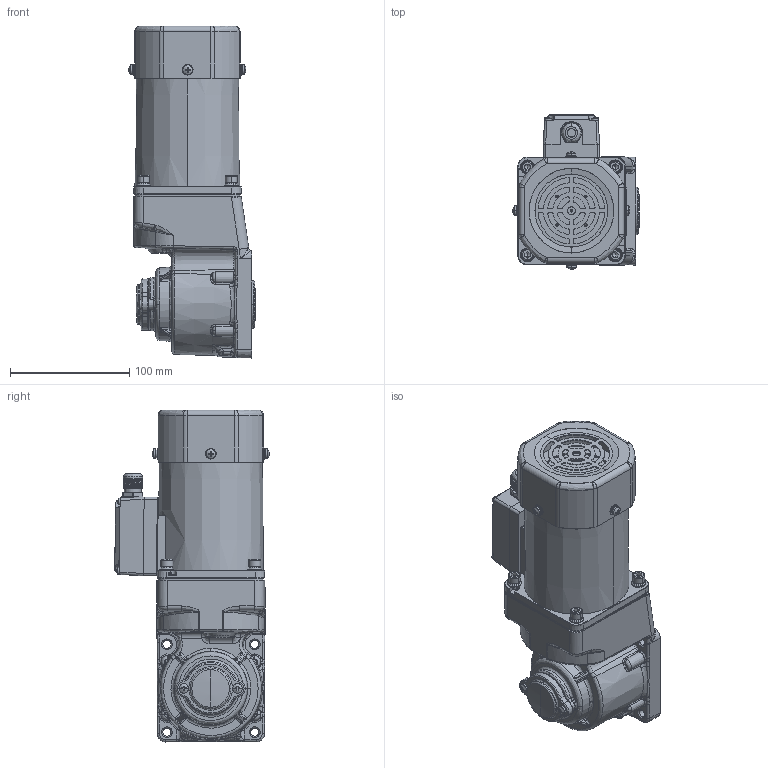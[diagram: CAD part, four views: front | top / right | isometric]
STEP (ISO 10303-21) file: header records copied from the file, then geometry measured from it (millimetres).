
FILE_DESCRIPTION (( 'STEP AP203' ), '1' );
FILE_NAME ('5IK120RGU-CFT(5GU3RC-180RC)ÐÂ.STEP', '2023-08-18T06:13:59', ( 'Windows User' ), ( 'P R C' ), 'SwSTEP 2.0', 'SolidWorks 2019', '' );
FILE_SCHEMA (( 'CONFIG_CONTROL_DESIGN' ));
Length unit declared in the file: millimetre
Products named in the file (9): 90RT____________^5IK120RGU-CFT(5GU3RC-180RC)ÐÂ(2)_5IK120RGU-CFT(5GU3RC-180RC)ÐÂ; ZD-5GU50RC-505-003______1^5IK120RGU-CFT(5GU3RC-180RC)陔(2)_5IK120RGU-CFT(5GU3RC-180RC)陔; hexagon socket head cap screws gb_GB_FASTENER_SCREWS_HSHCS M5X12-N^5IK120RGU-CFT(5GU3RC-180RC)ÐÂ(2)_5IK120RGU-CFT(5GU3RC-180RC)ÐÂ; 5IK120RGU-CFT(5GU3RC-180RC)陔; 5IK90RGU-CFT(5GU3RT-180RT)^5IK120RGU-CFT(5GU3RC-180RC)ÐÂ(2)_5IK120RGU-CFT(5GU3RC-180RC)ÐÂ; cross recessed pan head screws gb_GB_CROSS_SCREWS_TYPE1 M4X6-6  H type-N^5IK120RGU-CFT(5GU3RC-180RC)ÐÂ(2)_5IK120RGU-CFT(5GU3RC-180RC)ÐÂ; 90__________^5IK120RGU-CFT(5GU3RC-180RC)陔(2)_5IK120RGU-CFT(5GU3RC-180RC)陔; 5IK120RGU-CFT(5GU3RC-180RC)陔(2)^5IK120RGU-CFT(5GU3RC-180RC)陔; 90__________-0^5IK120RGU-CFT(5GU3RC-180RC)陔(2)_5IK120RGU-CFT(5GU3RC-180RC)陔
Assembly tree (12 placements, depth 3):
  5IK120RGU-CFT(5GU3RC-180RC)陔
    5IK120RGU-CFT(5GU3RC-180RC)陔(2)^5IK120RGU-CFT(5GU3RC-180RC)陔
      90__________^5IK120RGU-CFT(5GU3RC-180RC)陔(2)_5IK120RGU-CFT(5GU3RC-180RC)陔
      90RT____________^5IK120RGU-CFT(5GU3RC-180RC)ÐÂ(2)_5IK120RGU-CFT(5GU3RC-180RC)ÐÂ
      90__________-0^5IK120RGU-CFT(5GU3RC-180RC)陔(2)_5IK120RGU-CFT(5GU3RC-180RC)陔
      hexagon socket head cap screws gb_GB_FASTENER_SCREWS_HSHCS M5X12-N^5IK120RGU-CFT(5GU3RC-180RC)ÐÂ(2)_5IK120RGU-CFT(5GU3RC-180RC)ÐÂ  x4
      ZD-5GU50RC-505-003______1^5IK120RGU-CFT(5GU3RC-180RC)陔(2)_5IK120RGU-CFT(5GU3RC-180RC)陔
      cross recessed pan head screws gb_GB_CROSS_SCREWS_TYPE1 M4X6-6  H type-N^5IK120RGU-CFT(5GU3RC-180RC)ÐÂ(2)_5IK120RGU-CFT(5GU3RC-180RC)ÐÂ  x2
      5IK90RGU-CFT(5GU3RT-180RT)^5IK120RGU-CFT(5GU3RC-180RC)ÐÂ(2)_5IK120RGU-CFT(5GU3RC-180RC)ÐÂ
Bounding box: 105.81 x 129.3 x 278.04 mm (x, y, z)
Volume: 1668423.1 mm3; surface area: 229356.4 mm2
Topology: 45 solids, 45 shells, 2948 faces, 7398 edges, 4463 vertices
Faces by surface type: cylinder 812, plane 772, cone 701, bspline 573, torus 84, sphere 6
Entity records: 119005 total; most frequent: CARTESIAN_POINT 54629, ORIENTED_EDGE 14030, DIRECTION 12399, EDGE_CURVE 7015, AXIS2_PLACEMENT_3D 4942, VERTEX_POINT 4320, EDGE_LOOP 3007, FACE_OUTER_BOUND 2848
